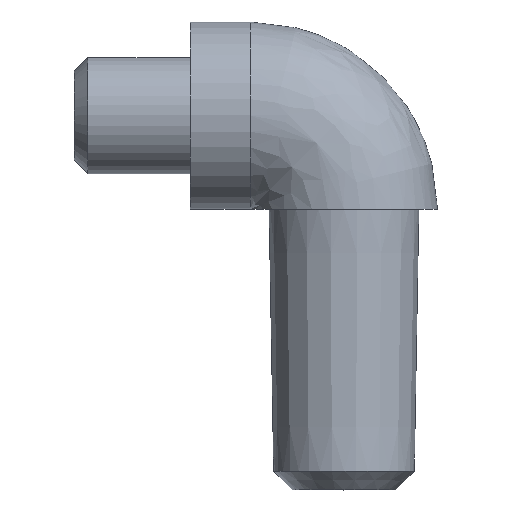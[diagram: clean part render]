
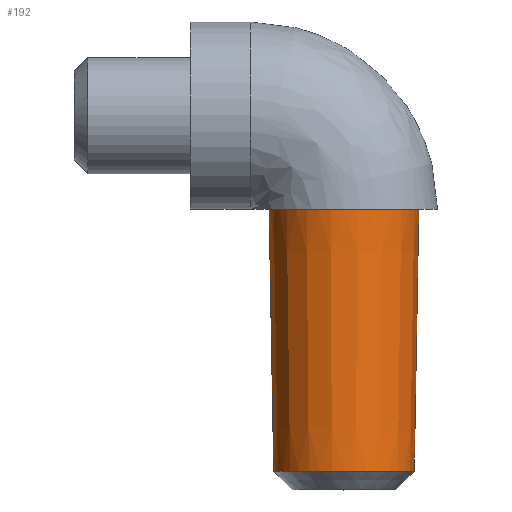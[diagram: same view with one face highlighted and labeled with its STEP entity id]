
A CAD part, top view. The second image highlights one B-rep face of the part: STEP entity #192.
In plain terms, the highlighted conical face has half-angle 1 degrees and reference radius 4 mm.
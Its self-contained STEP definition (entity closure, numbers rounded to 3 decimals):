
#35=FACE_OUTER_BOUND('',#51,.T.);
#51=EDGE_LOOP('',(#150,#151,#152,#153));
#69=LINE('',#339,#77);
#77=VECTOR('',#274,4.);
#86=CIRCLE('',#225,3.756);
#88=CIRCLE('',#228,4.);
#102=VERTEX_POINT('',#332);
#104=VERTEX_POINT('',#338);
#118=EDGE_CURVE('',#102,#102,#86,.T.);
#121=EDGE_CURVE('',#102,#104,#69,.T.);
#122=EDGE_CURVE('',#104,#104,#88,.T.);
#150=ORIENTED_EDGE('',*,*,#118,.F.);
#151=ORIENTED_EDGE('',*,*,#121,.T.);
#152=ORIENTED_EDGE('',*,*,#122,.F.);
#153=ORIENTED_EDGE('',*,*,#121,.F.);
#186=CONICAL_SURFACE('',#227,4.,0.017);
#192=ADVANCED_FACE('',(#35),#186,.T.);
#225=AXIS2_PLACEMENT_3D('',#333,#267,#268);
#227=AXIS2_PLACEMENT_3D('',#337,#272,#273);
#228=AXIS2_PLACEMENT_3D('',#340,#275,#276);
#267=DIRECTION('center_axis',(0.,-1.,0.));
#268=DIRECTION('ref_axis',(1.,0.,0.));
#272=DIRECTION('center_axis',(0.,1.,0.));
#273=DIRECTION('ref_axis',(1.,0.,0.));
#274=DIRECTION('',(-0.017,1.,0.));
#275=DIRECTION('center_axis',(0.,1.,0.));
#276=DIRECTION('ref_axis',(1.,0.,0.));
#332=CARTESIAN_POINT('',(5.644,-19.,0.));
#333=CARTESIAN_POINT('Origin',(9.4,-19.,0.));
#337=CARTESIAN_POINT('Origin',(9.4,-5.,0.));
#338=CARTESIAN_POINT('',(5.4,-5.,0.));
#339=CARTESIAN_POINT('',(5.4,-5.,0.));
#340=CARTESIAN_POINT('Origin',(9.4,-5.,0.));
